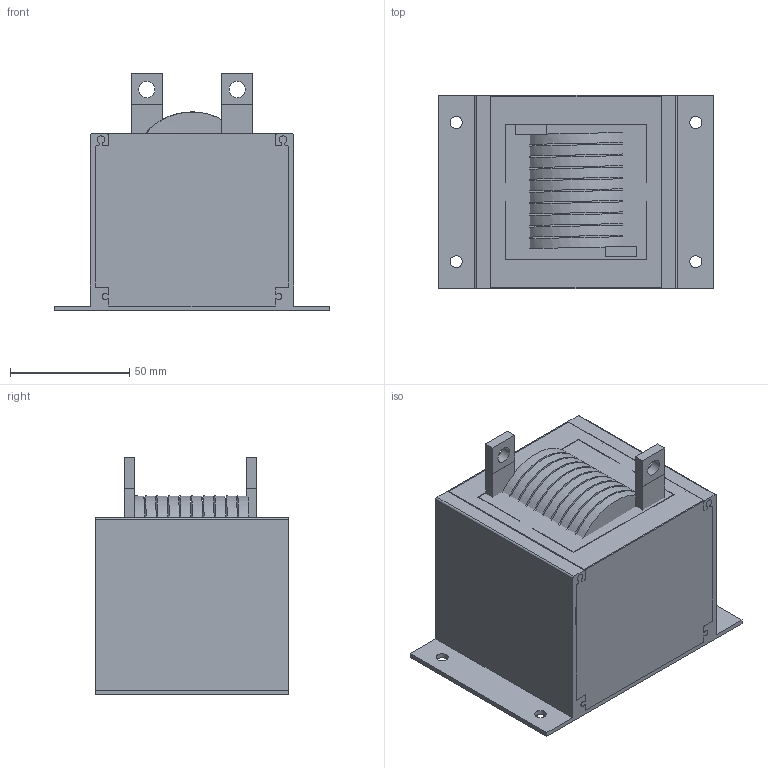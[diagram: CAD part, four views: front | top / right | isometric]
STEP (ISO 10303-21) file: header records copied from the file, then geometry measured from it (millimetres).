
FILE_DESCRIPTION (( 'STEP AP214' ), '1' );
FILE_NAME ('ELCES38A72-510M-400AH.STEP', '2020-03-05T22:04:50', ( '' ), ( '' ), 'SwSTEP 2.0', 'SolidWorks 2015', '' );
FILE_SCHEMA (( 'AUTOMOTIVE_DESIGN' ));
Length unit declared in the file: inch
Products named in the file (21): 600A inductor side filler; 600A inductor core; 600A inductor top filler; 600A inductor coil; 600A inductor outer mylar; 600A inductor housing; ELCES38A72-510M-400AH; 600A inductor nomex
Assembly tree (13 placements, depth 2):
  600A inductor side filler
  600A inductor core
  600A inductor top filler
  600A inductor housing
  600A inductor outer mylar
Bounding box: 115.82 x 81.28 x 99.84 mm (x, y, z)
Volume: 332391.9 mm3; surface area: 232862.6 mm2
Topology: 12 solids, 12 shells, 451 faces, 1113 edges, 685 vertices
Faces by surface type: plane 184, bspline 176, cylinder 91
Full cylindrical faces by diameter (mm): 5.08 x4, 6.858 x2
Entity records: 28672 total; most frequent: CARTESIAN_POINT 19983, ORIENTED_EDGE 1628, DIRECTION 1130, EDGE_CURVE 814, LINE 508, VECTOR 508, VERTEX_POINT 488, EDGE_LOOP 368
